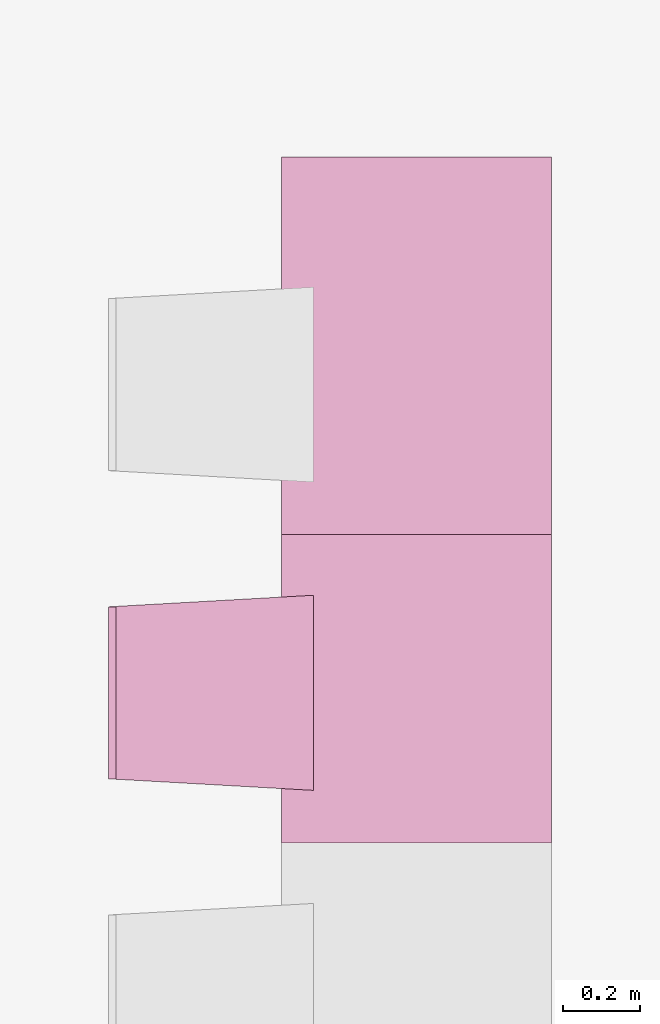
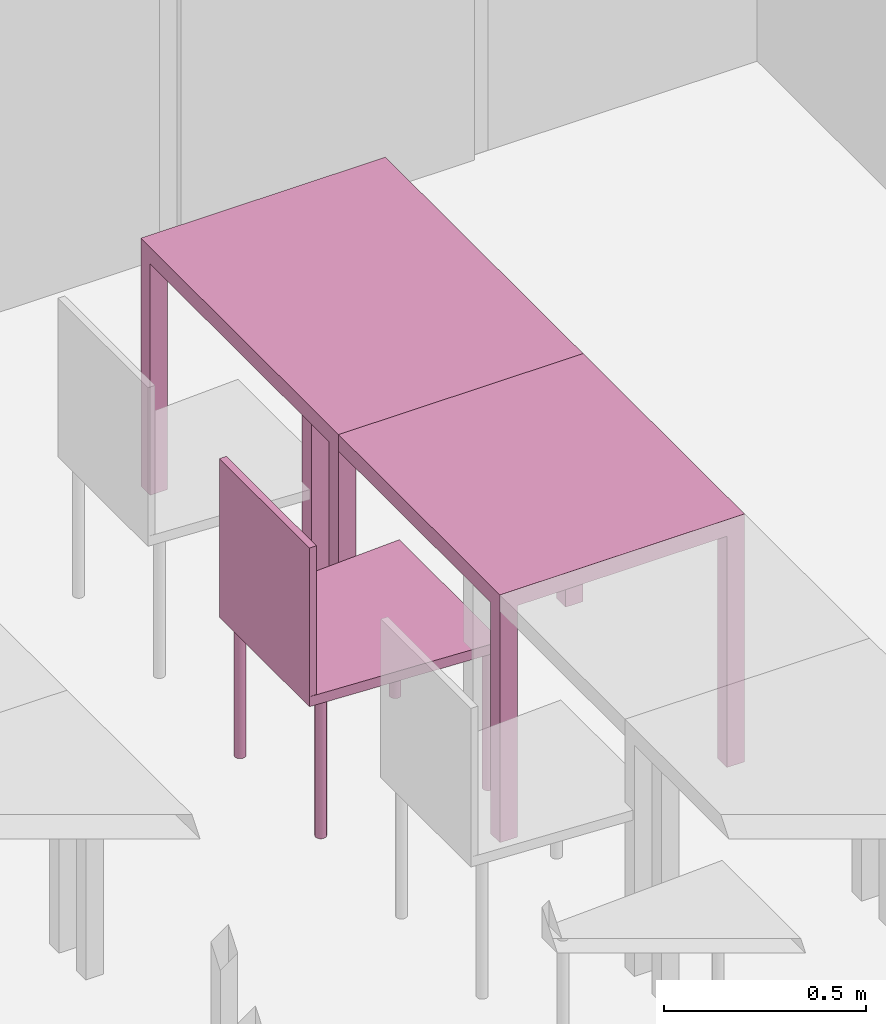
"""IFC4 building model written with IfcOpenShell, lengths in metres."""

from ifc_helpers import new_model, entity, si_unit, converted_unit, derived_unit, frame, origin, place, context, subcontext, project, spatial, faceted_brep, element, save


model = new_model("IFC4")

# Units and contexts
model_context = context("Model", 3, precision=1e-05, world=origin())
body_context = subcontext(model_context, "Body", "Model", "MODEL_VIEW")
ifc_project = project(units=[si_unit("LENGTHUNIT", "METRE"), si_unit("AREAUNIT", "SQUARE_METRE"), si_unit("VOLUMEUNIT", "CUBIC_METRE"), si_unit("MASSUNIT", "GRAM", prefix="KILO"), converted_unit("PLANEANGLEUNIT", "DEGREE", entity("IfcPlaneAngleMeasure", 0.0174532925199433), si_unit("PLANEANGLEUNIT", "RADIAN"), dimensions=[0, 0, 0, 0, 0, 0, 0]), derived_unit("THERMALTRANSMITTANCEUNIT", [(si_unit("POWERUNIT", "WATT"), 1), (si_unit("THERMODYNAMICTEMPERATUREUNIT", "KELVIN"), -1), (si_unit("LENGTHUNIT", "METRE"), -2)]), derived_unit("VOLUMETRICFLOWRATEUNIT", [(si_unit("LENGTHUNIT", "METRE"), 3), (converted_unit("TIMEUNIT", "hour", entity("IfcTimeMeasure", 3600.0), si_unit("TIMEUNIT", "SECOND"), dimensions=[0, 0, 1, 0, 0, 0, 0]), -1), (si_unit("LENGTHUNIT", "METRE"), -1)])], contexts=[model_context])

# Building, storeys
building_placement = place(None, origin())
building = spatial("IfcBuilding", under=ifc_project, at=building_placement, Name="HABITATGE PLURIFAMILIAR", CompositionType="ELEMENT")
storey_1_placement = place(building_placement, frame((0.0, 0.0, 3.35)))
storey_1 = spatial("IfcBuildingStorey", under=building, at=storey_1_placement, Name="PLANTA  ALTELL", CompositionType="ELEMENT", Elevation=3.35)
storey_2_placement = place(storey_1_placement, origin())
storey_2 = spatial("IfcBuildingStorey", under=storey_1, at=storey_2_placement, Name="NOU", CompositionType="PARTIAL")

# Furniture
furniture_1_placement = place(storey_2_placement, frame((414.171020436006, 15.6434480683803, 0.0)))
element("IfcFurniture", 1, at=furniture_1_placement, inside=storey_2, Name="Taula 80X70_PA", context=body_context, shape_type="Brep", body=[
    faceted_brep([(0.0, 0.0464285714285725, 0.0), (0.0, 0.0, 0.0), (0.0500000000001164, 0.0, 0.0), (0.0500000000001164, 0.0464285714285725, 0.0), (0.0500000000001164, 0.0464285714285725, 0.7), (0.0500000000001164, 0.0, 0.7), (0.0, 0.0, 0.7), (0.0, 0.0464285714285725, 0.7)], [[[0, 1, 2, 3]], [[4, 5, 6, 7]], [[3, 4, 7, 0]], [[2, 5, 4, 3]], [[1, 6, 5, 2]], [[0, 7, 6, 1]]], orient=[[False], [False], [False], [False], [False], [False]]),
    faceted_brep([(0.0, 0.98, 0.7), (0.0, 0.0, 0.7), (0.700069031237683, 0.0, 0.7), (0.700069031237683, 0.98, 0.7), (0.700069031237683, 0.98, 0.75), (0.700069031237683, 0.0, 0.75), (0.0, 0.0, 0.75), (0.0, 0.98, 0.75)], [[[0, 1, 2, 3]], [[4, 5, 6, 7]], [[3, 4, 7, 0]], [[2, 5, 4, 3]], [[1, 6, 5, 2]], [[0, 7, 6, 1]]], orient=[[False], [False], [False], [False], [False], [False]]),
    faceted_brep([(0.0, 0.98, 0.0), (0.0, 0.933571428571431, 0.0), (0.05, 0.933571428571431, 0.0), (0.05, 0.98, 0.0), (0.05, 0.98, 0.7), (0.05, 0.933571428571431, 0.7), (0.0, 0.933571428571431, 0.7), (0.0, 0.98, 0.7)], [[[0, 1, 2, 3]], [[4, 5, 6, 7]], [[3, 4, 7, 0]], [[2, 5, 4, 3]], [[1, 6, 5, 2]], [[0, 7, 6, 1]]], orient=[[False], [False], [False], [False], [False], [False]]),
    faceted_brep([(0.650069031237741, 0.98, 0.0), (0.650069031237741, 0.933571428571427, 0.0), (0.700069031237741, 0.933571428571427, 0.0), (0.700069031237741, 0.98, 0.0), (0.700069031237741, 0.98, 0.7), (0.700069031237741, 0.933571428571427, 0.7), (0.650069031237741, 0.933571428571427, 0.7), (0.650069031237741, 0.98, 0.7)], [[[0, 1, 2, 3]], [[4, 5, 6, 7]], [[3, 4, 7, 0]], [[2, 5, 4, 3]], [[1, 6, 5, 2]], [[0, 7, 6, 1]]], orient=[[False], [False], [False], [False], [False], [False]]),
    faceted_brep([(0.650069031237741, 0.0464285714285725, 0.0), (0.650069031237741, 0.0, 0.0), (0.700069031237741, 0.0, 0.0), (0.700069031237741, 0.0464285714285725, 0.0), (0.700069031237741, 0.0464285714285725, 0.7), (0.700069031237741, 0.0, 0.7), (0.650069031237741, 0.0, 0.7), (0.650069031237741, 0.0464285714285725, 0.7)], [[[0, 1, 2, 3]], [[4, 5, 6, 7]], [[3, 4, 7, 0]], [[2, 5, 4, 3]], [[1, 6, 5, 2]], [[0, 7, 6, 1]]], orient=[[False], [False], [False], [False], [False], [False]]),
])
furniture_2_placement = place(storey_2_placement, frame((414.171020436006, 14.8434480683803, 0.0)))
element("IfcFurniture", 2, at=furniture_2_placement, inside=storey_2, Name="Taula 80X70_PA", context=body_context, shape_type="Brep", body=[
    faceted_brep([(0.0, 0.0464285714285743, 0.0), (0.0, 0.0, 0.0), (0.0500000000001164, 0.0, 0.0), (0.0500000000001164, 0.0464285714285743, 0.0), (0.0500000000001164, 0.0464285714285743, 0.7), (0.0500000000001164, 0.0, 0.7), (0.0, 0.0, 0.7), (0.0, 0.0464285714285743, 0.7)], [[[0, 1, 2, 3]], [[4, 5, 6, 7]], [[3, 4, 7, 0]], [[2, 5, 4, 3]], [[1, 6, 5, 2]], [[0, 7, 6, 1]]], orient=[[False], [False], [False], [False], [False], [False]]),
    faceted_brep([(0.0, 0.98, 0.7), (0.0, 0.0, 0.7), (0.700069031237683, 0.0, 0.7), (0.700069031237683, 0.98, 0.7), (0.700069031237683, 0.98, 0.75), (0.700069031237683, 0.0, 0.75), (0.0, 0.0, 0.75), (0.0, 0.98, 0.75)], [[[0, 1, 2, 3]], [[4, 5, 6, 7]], [[3, 4, 7, 0]], [[2, 5, 4, 3]], [[1, 6, 5, 2]], [[0, 7, 6, 1]]], orient=[[False], [False], [False], [False], [False], [False]]),
    faceted_brep([(0.0, 0.980000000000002, 0.0), (0.0, 0.933571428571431, 0.0), (0.05, 0.933571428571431, 0.0), (0.05, 0.980000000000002, 0.0), (0.05, 0.980000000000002, 0.7), (0.05, 0.933571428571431, 0.7), (0.0, 0.933571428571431, 0.7), (0.0, 0.980000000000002, 0.7)], [[[0, 1, 2, 3]], [[4, 5, 6, 7]], [[3, 4, 7, 0]], [[2, 5, 4, 3]], [[1, 6, 5, 2]], [[0, 7, 6, 1]]], orient=[[False], [False], [False], [False], [False], [False]]),
    faceted_brep([(0.650069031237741, 0.98, 0.0), (0.650069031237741, 0.933571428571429, 0.0), (0.700069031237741, 0.933571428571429, 0.0), (0.700069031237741, 0.98, 0.0), (0.700069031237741, 0.98, 0.7), (0.700069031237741, 0.933571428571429, 0.7), (0.650069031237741, 0.933571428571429, 0.7), (0.650069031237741, 0.98, 0.7)], [[[0, 1, 2, 3]], [[4, 5, 6, 7]], [[3, 4, 7, 0]], [[2, 5, 4, 3]], [[1, 6, 5, 2]], [[0, 7, 6, 1]]], orient=[[False], [False], [False], [False], [False], [False]]),
    faceted_brep([(0.650069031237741, 0.0464285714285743, 0.0), (0.650069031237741, 0.0, 0.0), (0.700069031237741, 0.0, 0.0), (0.700069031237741, 0.0464285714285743, 0.0), (0.700069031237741, 0.0464285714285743, 0.7), (0.700069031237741, 0.0, 0.7), (0.650069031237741, 0.0, 0.7), (0.650069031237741, 0.0464285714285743, 0.7)], [[[0, 1, 2, 3]], [[4, 5, 6, 7]], [[3, 4, 7, 0]], [[2, 5, 4, 3]], [[1, 6, 5, 2]], [[0, 7, 6, 1]]], orient=[[False], [False], [False], [False], [False], [False]]),
])
furniture_3_placement = place(storey_2_placement, frame((413.721879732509, 14.9796818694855, 0.0499839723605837)))
element("IfcFurniture", 3, at=furniture_3_placement, inside=storey_2, Name="Cadira confident_PA", context=body_context, shape_type="Brep", body=[
    faceted_brep([(0.507575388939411, 0.0391636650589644, 0.0), (0.504980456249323, 0.0389479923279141, 0.0), (0.502462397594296, 0.0382849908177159, 0.0), (0.500097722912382, 0.0371948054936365, 0.0), (0.497958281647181, 0.0357105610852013, 0.0), (0.49610907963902, 0.0338773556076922, 0.0), (0.494606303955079, 0.0317508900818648, 0.0), (0.493495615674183, 0.0293957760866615, 0.0), (0.492810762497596, 0.0268835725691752, 0.0), (0.492572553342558, 0.0242906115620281, 0.0), (0.492788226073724, 0.0216956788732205, 0.0), (0.49345122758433, 0.019177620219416, 0.0), (0.494541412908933, 0.0168129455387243, 0.0), (0.496025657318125, 0.0146735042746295, 0.0), (0.497858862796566, 0.0128243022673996, 0.0), (0.499985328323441, 0.0113215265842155, 0.0), (0.502340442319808, 0.0102108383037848, 0.0), (0.504852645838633, 0.00952598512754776, 0.0), (0.507445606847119, 0.00928777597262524, 0.0), (0.510040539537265, 0.00950344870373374, 0.0), (0.512558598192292, 0.010166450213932, 0.0), (0.514923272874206, 0.0112566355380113, 0.0), (0.517062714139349, 0.0127408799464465, 0.0), (0.51891191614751, 0.0145740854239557, 0.0), (0.520414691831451, 0.0167005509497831, 0.0), (0.521525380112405, 0.0190556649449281, 0.0), (0.522210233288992, 0.0215678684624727, 0.0), (0.522448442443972, 0.024160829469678, 0.0), (0.522232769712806, 0.0267557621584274, 0.0), (0.5215697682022, 0.0292738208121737, 0.0), (0.520479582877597, 0.0316384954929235, 0.0), (0.518995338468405, 0.0337779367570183, 0.0), (0.517162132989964, 0.0356271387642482, 0.0), (0.515035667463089, 0.0371299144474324, 0.0), (0.512680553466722, 0.038240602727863, 0.0), (0.510168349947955, 0.0389254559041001, 0.0), (0.507575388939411, 0.0391636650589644, 0.448281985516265), (0.510168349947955, 0.0389254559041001, 0.448281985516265), (0.512680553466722, 0.038240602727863, 0.448281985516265), (0.515035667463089, 0.0371299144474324, 0.448281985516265), (0.517162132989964, 0.0356271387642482, 0.448281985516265), (0.518995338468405, 0.0337779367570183, 0.448281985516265), (0.520479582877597, 0.0316384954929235, 0.448281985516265), (0.5215697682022, 0.0292738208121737, 0.448281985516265), (0.522232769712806, 0.0267557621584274, 0.448281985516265), (0.522448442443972, 0.024160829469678, 0.448281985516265), (0.522210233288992, 0.0215678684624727, 0.448281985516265), (0.521525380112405, 0.0190556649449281, 0.448281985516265), (0.520414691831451, 0.0167005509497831, 0.448281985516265), (0.51891191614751, 0.0145740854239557, 0.448281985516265), (0.517062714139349, 0.0127408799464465, 0.448281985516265), (0.514923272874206, 0.0112566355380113, 0.448281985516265), (0.512558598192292, 0.010166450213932, 0.448281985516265), (0.510040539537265, 0.00950344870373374, 0.448281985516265), (0.507445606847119, 0.00928777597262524, 0.448281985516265), (0.504852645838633, 0.00952598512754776, 0.448281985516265), (0.502340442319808, 0.0102108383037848, 0.448281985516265), (0.499985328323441, 0.0113215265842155, 0.448281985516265), (0.497858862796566, 0.0128243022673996, 0.448281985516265), (0.496025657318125, 0.0146735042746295, 0.448281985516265), (0.494541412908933, 0.0168129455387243, 0.448281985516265), (0.49345122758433, 0.019177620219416, 0.448281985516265), (0.492788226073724, 0.0216956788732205, 0.448281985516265), (0.492572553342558, 0.0242906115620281, 0.448281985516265), (0.492810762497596, 0.0268835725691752, 0.448281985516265), (0.493495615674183, 0.0293957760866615, 0.448281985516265), (0.494606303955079, 0.0317508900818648, 0.448281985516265), (0.49610907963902, 0.0338773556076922, 0.448281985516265), (0.497958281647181, 0.0357105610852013, 0.448281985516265), (0.500097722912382, 0.0371948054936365, 0.448281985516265), (0.502462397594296, 0.0382849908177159, 0.448281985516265), (0.504980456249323, 0.0389479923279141, 0.448281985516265)], [[[0, 1, 2, 3, 4, 5, 6, 7, 8, 9, 10, 11, 12, 13, 14, 15, 16, 17, 18, 19, 20, 21, 22, 23, 24, 25, 26, 27, 28, 29, 30, 31, 32, 33, 34, 35]], [[36, 37, 38, 39, 40, 41, 42, 43, 44, 45, 46, 47, 48, 49, 50, 51, 52, 53, 54, 55, 56, 57, 58, 59, 60, 61, 62, 63, 64, 65, 66, 67, 68, 69, 70, 71]], [[1, 0, 36, 71]], [[2, 1, 71, 70]], [[3, 2, 70, 69]], [[4, 3, 69, 68]], [[5, 4, 68, 67]], [[6, 5, 67, 66]], [[7, 6, 66, 65]], [[8, 7, 65, 64]], [[9, 8, 64, 63]], [[10, 9, 63, 62]], [[11, 10, 62, 61]], [[12, 11, 61, 60]], [[13, 12, 60, 59]], [[14, 13, 59, 58]], [[15, 14, 58, 57]], [[16, 15, 57, 56]], [[17, 16, 56, 55]], [[18, 17, 55, 54]], [[19, 18, 54, 53]], [[20, 19, 53, 52]], [[21, 20, 52, 51]], [[22, 21, 51, 50]], [[23, 22, 50, 49]], [[24, 23, 49, 48]], [[25, 24, 48, 47]], [[26, 25, 47, 46]], [[27, 26, 46, 45]], [[28, 27, 45, 44]], [[29, 28, 44, 43]], [[30, 29, 43, 42]], [[31, 30, 42, 41]], [[32, 31, 41, 40]], [[33, 32, 40, 39]], [[34, 33, 39, 38]], [[35, 34, 38, 37]], [[0, 35, 37, 36]]], orient=[[False], [False], [False], [False], [False], [False], [False], [False], [False], [False], [False], [False], [False], [False], [False], [False], [False], [False], [False], [False], [False], [False], [False], [False], [False], [False], [False], [False], [False], [False], [False], [False], [False], [False], [False], [False], [False], [False]]),
    faceted_brep([(0.0451683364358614, 0.0668016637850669, 0.0), (0.042573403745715, 0.0665859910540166, 0.0), (0.0400553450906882, 0.065922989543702, 0.0), (0.0376906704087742, 0.0648328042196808, 0.0), (0.0355512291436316, 0.0633485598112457, 0.0), (0.0337020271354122, 0.0615153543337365, 0.0), (0.0321992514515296, 0.0593888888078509, 0.0), (0.0310885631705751, 0.057033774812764, 0.0), (0.0304037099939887, 0.0545215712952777, 0.0), (0.0301655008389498, 0.0519286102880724, 0.0), (0.0303811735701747, 0.0493336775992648, 0.0), (0.0310441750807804, 0.0468156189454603, 0.0), (0.0321343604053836, 0.0444509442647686, 0.0), (0.0336186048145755, 0.0423115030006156, 0.0), (0.035451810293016, 0.0404623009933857, 0.0), (0.0375782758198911, 0.0389595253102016, 0.0), (0.0399333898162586, 0.0378488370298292, 0.0), (0.0424455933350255, 0.0371639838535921, 0.0), (0.0450385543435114, 0.0369257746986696, 0.0), (0.0476334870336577, 0.0371414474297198, 0.0), (0.0501515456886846, 0.0378044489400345, 0.0), (0.0525162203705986, 0.0388946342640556, 0.0), (0.0546556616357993, 0.0403788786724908, 0.0), (0.0565048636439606, 0.0422120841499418, 0.0), (0.0580076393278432, 0.0443385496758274, 0.0), (0.0591183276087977, 0.0466936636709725, 0.0), (0.059803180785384, 0.0492058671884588, 0.0), (0.060041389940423, 0.0517988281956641, 0.0), (0.059825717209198, 0.0543937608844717, 0.0), (0.0591627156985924, 0.0569118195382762, 0.0), (0.0580725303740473, 0.0592764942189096, 0.0), (0.0565882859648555, 0.0614159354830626, 0.0), (0.054755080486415, 0.0632651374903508, 0.0), (0.0526286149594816, 0.0647679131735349, 0.0), (0.0502735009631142, 0.0658786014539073, 0.0), (0.0477612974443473, 0.0665634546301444, 0.0), (0.0451683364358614, 0.0668016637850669, 0.448281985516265), (0.0477612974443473, 0.0665634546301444, 0.448281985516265), (0.0502735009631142, 0.0658786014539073, 0.448281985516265), (0.0526286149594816, 0.0647679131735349, 0.448281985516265), (0.054755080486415, 0.0632651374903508, 0.448281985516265), (0.0565882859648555, 0.0614159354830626, 0.448281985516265), (0.0580725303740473, 0.0592764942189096, 0.448281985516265), (0.0591627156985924, 0.0569118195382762, 0.448281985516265), (0.059825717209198, 0.0543937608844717, 0.448281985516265), (0.060041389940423, 0.0517988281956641, 0.448281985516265), (0.059803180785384, 0.0492058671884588, 0.448281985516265), (0.0591183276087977, 0.0466936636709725, 0.448281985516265), (0.0580076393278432, 0.0443385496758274, 0.448281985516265), (0.0565048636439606, 0.0422120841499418, 0.448281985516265), (0.0546556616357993, 0.0403788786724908, 0.448281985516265), (0.0525162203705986, 0.0388946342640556, 0.448281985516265), (0.0501515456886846, 0.0378044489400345, 0.448281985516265), (0.0476334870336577, 0.0371414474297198, 0.448281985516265), (0.0450385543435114, 0.0369257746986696, 0.448281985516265), (0.0424455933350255, 0.0371639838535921, 0.448281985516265), (0.0399333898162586, 0.0378488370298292, 0.448281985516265), (0.0375782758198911, 0.0389595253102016, 0.448281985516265), (0.035451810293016, 0.0404623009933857, 0.448281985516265), (0.0336186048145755, 0.0423115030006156, 0.448281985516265), (0.0321343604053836, 0.0444509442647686, 0.448281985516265), (0.0310441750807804, 0.0468156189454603, 0.448281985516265), (0.0303811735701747, 0.0493336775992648, 0.448281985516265), (0.0301655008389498, 0.0519286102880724, 0.448281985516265), (0.0304037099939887, 0.0545215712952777, 0.448281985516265), (0.0310885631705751, 0.057033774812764, 0.448281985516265), (0.0321992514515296, 0.0593888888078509, 0.448281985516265), (0.0337020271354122, 0.0615153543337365, 0.448281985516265), (0.0355512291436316, 0.0633485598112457, 0.448281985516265), (0.0376906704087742, 0.0648328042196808, 0.448281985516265), (0.0400553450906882, 0.065922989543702, 0.448281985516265), (0.042573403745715, 0.0665859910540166, 0.448281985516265)], [[[0, 1, 2, 3, 4, 5, 6, 7, 8, 9, 10, 11, 12, 13, 14, 15, 16, 17, 18, 19, 20, 21, 22, 23, 24, 25, 26, 27, 28, 29, 30, 31, 32, 33, 34, 35]], [[36, 37, 38, 39, 40, 41, 42, 43, 44, 45, 46, 47, 48, 49, 50, 51, 52, 53, 54, 55, 56, 57, 58, 59, 60, 61, 62, 63, 64, 65, 66, 67, 68, 69, 70, 71]], [[1, 0, 36, 71]], [[2, 1, 71, 70]], [[3, 2, 70, 69]], [[4, 3, 69, 68]], [[5, 4, 68, 67]], [[6, 5, 67, 66]], [[7, 6, 66, 65]], [[8, 7, 65, 64]], [[9, 8, 64, 63]], [[10, 9, 63, 62]], [[11, 10, 62, 61]], [[12, 11, 61, 60]], [[13, 12, 60, 59]], [[14, 13, 59, 58]], [[15, 14, 58, 57]], [[16, 15, 57, 56]], [[17, 16, 56, 55]], [[18, 17, 55, 54]], [[19, 18, 54, 53]], [[20, 19, 53, 52]], [[21, 20, 52, 51]], [[22, 21, 51, 50]], [[23, 22, 50, 49]], [[24, 23, 49, 48]], [[25, 24, 48, 47]], [[26, 25, 47, 46]], [[27, 26, 46, 45]], [[28, 27, 45, 44]], [[29, 28, 44, 43]], [[30, 29, 43, 42]], [[31, 30, 42, 41]], [[32, 31, 41, 40]], [[33, 32, 40, 39]], [[34, 33, 39, 38]], [[35, 34, 38, 37]], [[0, 35, 37, 36]]], orient=[[False], [False], [False], [False], [False], [False], [False], [False], [False], [False], [False], [False], [False], [False], [False], [False], [False], [False], [False], [False], [False], [False], [False], [False], [False], [False], [False], [False], [False], [False], [False], [False], [False], [False], [False], [False], [False], [False]]),
    faceted_brep([(0.507575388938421, 0.499163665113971, 0.0), (0.504980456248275, 0.49894799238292, 0.0), (0.502462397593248, 0.498284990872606, 0.0), (0.500097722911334, 0.497194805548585, 0.0), (0.497958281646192, 0.495710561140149, 0.0), (0.49610907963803, 0.493877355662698, 0.0), (0.49460630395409, 0.491750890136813, 0.0), (0.493495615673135, 0.489395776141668, 0.0), (0.492810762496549, 0.486883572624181, 0.0), (0.492572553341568, 0.484290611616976, 0.0), (0.492788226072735, 0.481695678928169, 0.0), (0.49345122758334, 0.479177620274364, 0.0), (0.494541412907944, 0.476812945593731, 0.0), (0.496025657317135, 0.474673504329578, 0.0), (0.497858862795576, 0.472824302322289, 0.0), (0.499985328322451, 0.471321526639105, 0.0), (0.502340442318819, 0.470210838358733, 0.0), (0.504852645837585, 0.469525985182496, 0.0), (0.507445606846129, 0.469287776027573, 0.0), (0.510040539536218, 0.469503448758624, 0.0), (0.512558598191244, 0.470166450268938, 0.0), (0.514923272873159, 0.471256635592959, 0.0), (0.517062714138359, 0.472740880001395, 0.0), (0.518911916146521, 0.474574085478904, 0.0), (0.520414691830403, 0.476700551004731, 0.0), (0.521525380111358, 0.479055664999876, 0.0), (0.522210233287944, 0.481567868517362, 0.0), (0.522448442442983, 0.484160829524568, 0.0), (0.522232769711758, 0.486755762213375, 0.0), (0.521569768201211, 0.48927382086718, 0.0), (0.520479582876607, 0.491638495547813, 0.0), (0.518995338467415, 0.493777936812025, 0.0), (0.517162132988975, 0.495627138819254, 0.0), (0.515035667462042, 0.497129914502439, 0.0), (0.512680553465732, 0.498240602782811, 0.0), (0.510168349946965, 0.498925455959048, 0.0), (0.507575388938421, 0.499163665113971, 0.448281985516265), (0.510168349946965, 0.498925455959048, 0.448281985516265), (0.512680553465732, 0.498240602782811, 0.448281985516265), (0.515035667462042, 0.497129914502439, 0.448281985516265), (0.517162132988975, 0.495627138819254, 0.448281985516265), (0.518995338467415, 0.493777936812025, 0.448281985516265), (0.520479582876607, 0.491638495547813, 0.448281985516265), (0.521569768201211, 0.48927382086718, 0.448281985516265), (0.522232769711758, 0.486755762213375, 0.448281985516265), (0.522448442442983, 0.484160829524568, 0.448281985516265), (0.522210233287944, 0.481567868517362, 0.448281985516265), (0.521525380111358, 0.479055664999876, 0.448281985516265), (0.520414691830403, 0.476700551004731, 0.448281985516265), (0.518911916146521, 0.474574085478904, 0.448281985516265), (0.517062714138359, 0.472740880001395, 0.448281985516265), (0.514923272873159, 0.471256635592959, 0.448281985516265), (0.512558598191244, 0.470166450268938, 0.448281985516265), (0.510040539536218, 0.469503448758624, 0.448281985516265), (0.507445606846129, 0.469287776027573, 0.448281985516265), (0.504852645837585, 0.469525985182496, 0.448281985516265), (0.502340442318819, 0.470210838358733, 0.448281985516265), (0.499985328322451, 0.471321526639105, 0.448281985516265), (0.497858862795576, 0.472824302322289, 0.448281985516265), (0.496025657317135, 0.474673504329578, 0.448281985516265), (0.494541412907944, 0.476812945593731, 0.448281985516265), (0.49345122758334, 0.479177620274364, 0.448281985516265), (0.492788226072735, 0.481695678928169, 0.448281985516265), (0.492572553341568, 0.484290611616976, 0.448281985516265), (0.492810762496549, 0.486883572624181, 0.448281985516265), (0.493495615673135, 0.489395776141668, 0.448281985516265), (0.49460630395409, 0.491750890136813, 0.448281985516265), (0.49610907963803, 0.493877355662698, 0.448281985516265), (0.497958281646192, 0.495710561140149, 0.448281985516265), (0.500097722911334, 0.497194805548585, 0.448281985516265), (0.502462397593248, 0.498284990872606, 0.448281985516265), (0.504980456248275, 0.49894799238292, 0.448281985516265)], [[[0, 1, 2, 3, 4, 5, 6, 7, 8, 9, 10, 11, 12, 13, 14, 15, 16, 17, 18, 19, 20, 21, 22, 23, 24, 25, 26, 27, 28, 29, 30, 31, 32, 33, 34, 35]], [[36, 37, 38, 39, 40, 41, 42, 43, 44, 45, 46, 47, 48, 49, 50, 51, 52, 53, 54, 55, 56, 57, 58, 59, 60, 61, 62, 63, 64, 65, 66, 67, 68, 69, 70, 71]], [[1, 0, 36, 71]], [[2, 1, 71, 70]], [[3, 2, 70, 69]], [[4, 3, 69, 68]], [[5, 4, 68, 67]], [[6, 5, 67, 66]], [[7, 6, 66, 65]], [[8, 7, 65, 64]], [[9, 8, 64, 63]], [[10, 9, 63, 62]], [[11, 10, 62, 61]], [[12, 11, 61, 60]], [[13, 12, 60, 59]], [[14, 13, 59, 58]], [[15, 14, 58, 57]], [[16, 15, 57, 56]], [[17, 16, 56, 55]], [[18, 17, 55, 54]], [[19, 18, 54, 53]], [[20, 19, 53, 52]], [[21, 20, 52, 51]], [[22, 21, 51, 50]], [[23, 22, 50, 49]], [[24, 23, 49, 48]], [[25, 24, 48, 47]], [[26, 25, 47, 46]], [[27, 26, 46, 45]], [[28, 27, 45, 44]], [[29, 28, 44, 43]], [[30, 29, 43, 42]], [[31, 30, 42, 41]], [[32, 31, 41, 40]], [[33, 32, 40, 39]], [[34, 33, 39, 38]], [[35, 34, 38, 37]], [[0, 35, 37, 36]]], orient=[[False], [False], [False], [False], [False], [False], [False], [False], [False], [False], [False], [False], [False], [False], [False], [False], [False], [False], [False], [False], [False], [False], [False], [False], [False], [False], [False], [False], [False], [False], [False], [False], [False], [False], [False], [False], [False], [False]]),
    faceted_brep([(0.0451683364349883, 0.466801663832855, 0.0), (0.0425734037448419, 0.466585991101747, 0.0), (0.0400553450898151, 0.46592298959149, 0.0), (0.0376906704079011, 0.464832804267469, 0.0), (0.0355512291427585, 0.463348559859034, 0.0), (0.0337020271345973, 0.461515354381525, 0.0), (0.0321992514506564, 0.459388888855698, 0.0), (0.031088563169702, 0.457033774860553, 0.0), (0.0304037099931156, 0.454521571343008, 0.0), (0.0301655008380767, 0.451928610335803, 0.0), (0.0303811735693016, 0.449333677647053, 0.0), (0.0310441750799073, 0.446815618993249, 0.0), (0.0321343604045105, 0.444450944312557, 0.0), (0.0336186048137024, 0.442311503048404, 0.0), (0.0354518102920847, 0.440462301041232, 0.0), (0.037578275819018, 0.43895952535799, 0.0), (0.0399333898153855, 0.437848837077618, 0.0), (0.0424455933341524, 0.437163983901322, 0.0), (0.0450385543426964, 0.436925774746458, 0.0), (0.0476334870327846, 0.437141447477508, 0.0), (0.0501515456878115, 0.437804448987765, 0.0), (0.0525162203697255, 0.438894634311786, 0.0), (0.054655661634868, 0.440378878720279, 0.0), (0.0565048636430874, 0.44221208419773, 0.0), (0.0580076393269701, 0.444338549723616, 0.0), (0.0591183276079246, 0.446693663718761, 0.0), (0.0598031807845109, 0.449205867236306, 0.0), (0.0600413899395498, 0.451798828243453, 0.0), (0.0598257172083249, 0.45439376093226, 0.0), (0.0591627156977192, 0.456911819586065, 0.0), (0.058072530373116, 0.459276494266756, 0.0), (0.0565882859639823, 0.461415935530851, 0.0), (0.0547550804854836, 0.463265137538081, 0.0), (0.0526286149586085, 0.464767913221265, 0.0), (0.0502735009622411, 0.465878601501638, 0.0), (0.0477612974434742, 0.466563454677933, 0.0), (0.0451683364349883, 0.466801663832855, 0.448281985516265), (0.0477612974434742, 0.466563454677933, 0.448281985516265), (0.0502735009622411, 0.465878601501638, 0.448281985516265), (0.0526286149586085, 0.464767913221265, 0.448281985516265), (0.0547550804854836, 0.463265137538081, 0.448281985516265), (0.0565882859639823, 0.461415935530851, 0.448281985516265), (0.058072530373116, 0.459276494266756, 0.448281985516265), (0.0591627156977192, 0.456911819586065, 0.448281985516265), (0.0598257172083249, 0.45439376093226, 0.448281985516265), (0.0600413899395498, 0.451798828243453, 0.448281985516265), (0.0598031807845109, 0.449205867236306, 0.448281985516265), (0.0591183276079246, 0.446693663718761, 0.448281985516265), (0.0580076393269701, 0.444338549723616, 0.448281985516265), (0.0565048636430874, 0.44221208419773, 0.448281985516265), (0.054655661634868, 0.440378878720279, 0.448281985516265), (0.0525162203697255, 0.438894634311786, 0.448281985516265), (0.0501515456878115, 0.437804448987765, 0.448281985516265), (0.0476334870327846, 0.437141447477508, 0.448281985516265), (0.0450385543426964, 0.436925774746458, 0.448281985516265), (0.0424455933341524, 0.437163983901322, 0.448281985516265), (0.0399333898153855, 0.437848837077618, 0.448281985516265), (0.037578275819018, 0.43895952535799, 0.448281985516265), (0.0354518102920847, 0.440462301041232, 0.448281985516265), (0.0336186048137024, 0.442311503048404, 0.448281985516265), (0.0321343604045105, 0.444450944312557, 0.448281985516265), (0.0310441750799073, 0.446815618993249, 0.448281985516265), (0.0303811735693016, 0.449333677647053, 0.448281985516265), (0.0301655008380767, 0.451928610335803, 0.448281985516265), (0.0304037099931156, 0.454521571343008, 0.448281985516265), (0.031088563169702, 0.457033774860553, 0.448281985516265), (0.0321992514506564, 0.459388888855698, 0.448281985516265), (0.0337020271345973, 0.461515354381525, 0.448281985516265), (0.0355512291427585, 0.463348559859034, 0.448281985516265), (0.0376906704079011, 0.464832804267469, 0.448281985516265), (0.0400553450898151, 0.46592298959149, 0.448281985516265), (0.0425734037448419, 0.466585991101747, 0.448281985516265)], [[[0, 1, 2, 3, 4, 5, 6, 7, 8, 9, 10, 11, 12, 13, 14, 15, 16, 17, 18, 19, 20, 21, 22, 23, 24, 25, 26, 27, 28, 29, 30, 31, 32, 33, 34, 35]], [[36, 37, 38, 39, 40, 41, 42, 43, 44, 45, 46, 47, 48, 49, 50, 51, 52, 53, 54, 55, 56, 57, 58, 59, 60, 61, 62, 63, 64, 65, 66, 67, 68, 69, 70, 71]], [[1, 0, 36, 71]], [[2, 1, 71, 70]], [[3, 2, 70, 69]], [[4, 3, 69, 68]], [[5, 4, 68, 67]], [[6, 5, 67, 66]], [[7, 6, 66, 65]], [[8, 7, 65, 64]], [[9, 8, 64, 63]], [[10, 9, 63, 62]], [[11, 10, 62, 61]], [[12, 11, 61, 60]], [[13, 12, 60, 59]], [[14, 13, 59, 58]], [[15, 14, 58, 57]], [[16, 15, 57, 56]], [[17, 16, 56, 55]], [[18, 17, 55, 54]], [[19, 18, 54, 53]], [[20, 19, 53, 52]], [[21, 20, 52, 51]], [[22, 21, 51, 50]], [[23, 22, 50, 49]], [[24, 23, 49, 48]], [[25, 24, 48, 47]], [[26, 25, 47, 46]], [[27, 26, 46, 45]], [[28, 27, 45, 44]], [[29, 28, 44, 43]], [[30, 29, 43, 42]], [[31, 30, 42, 41]], [[32, 31, 41, 40]], [[33, 32, 40, 39]], [[34, 33, 39, 38]], [[35, 34, 38, 37]], [[0, 35, 37, 36]]], orient=[[False], [False], [False], [False], [False], [False], [False], [False], [False], [False], [False], [False], [False], [False], [False], [False], [False], [False], [False], [False], [False], [False], [False], [False], [False], [False], [False], [False], [False], [False], [False], [False], [False], [False], [False], [False], [False], [False]]),
    faceted_brep([(0.0, 0.476514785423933, 0.418281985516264), (0.0, 0.0300000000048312, 0.418281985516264), (0.532607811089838, 0.0, 0.418281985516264), (0.532607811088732, 0.506514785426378, 0.418281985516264), (0.532607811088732, 0.506514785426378, 0.448281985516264), (0.532607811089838, 0.0, 0.448281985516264), (0.0, 0.0300000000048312, 0.448281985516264), (0.0, 0.476514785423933, 0.448281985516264)], [[[0, 1, 2, 3]], [[4, 5, 6, 7]], [[3, 4, 7, 0]], [[2, 5, 4, 3]], [[1, 6, 5, 2]], [[0, 7, 6, 1]]], orient=[[False], [False], [False], [False], [False], [False]]),
    faceted_brep([(0.0200000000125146, 0.476514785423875, 0.448281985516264), (0.0, 0.476514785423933, 0.448281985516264), (0.0, 0.0300000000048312, 0.448281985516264), (0.0200000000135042, 0.0300000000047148, 0.448281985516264), (0.0200000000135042, 0.0300000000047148, 0.898281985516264), (0.0, 0.0300000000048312, 0.898281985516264), (0.0, 0.476514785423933, 0.898281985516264), (0.0200000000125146, 0.476514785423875, 0.898281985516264)], [[[0, 1, 2, 3]], [[4, 5, 6, 7]], [[3, 4, 7, 0]], [[2, 5, 4, 3]], [[1, 6, 5, 2]], [[0, 7, 6, 1]]], orient=[[False], [False], [False], [False], [False], [False]]),
])

save(model, "model.ifc")
